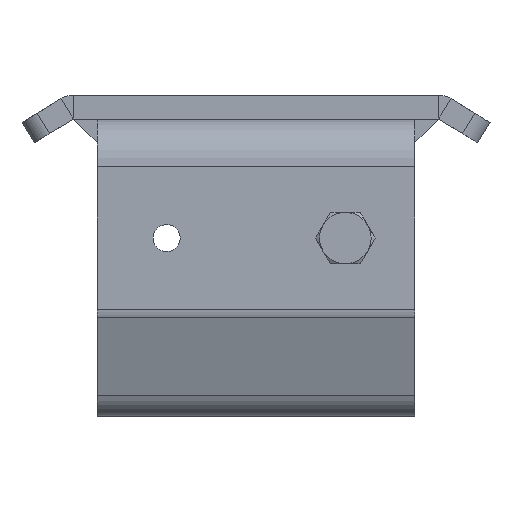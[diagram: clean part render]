
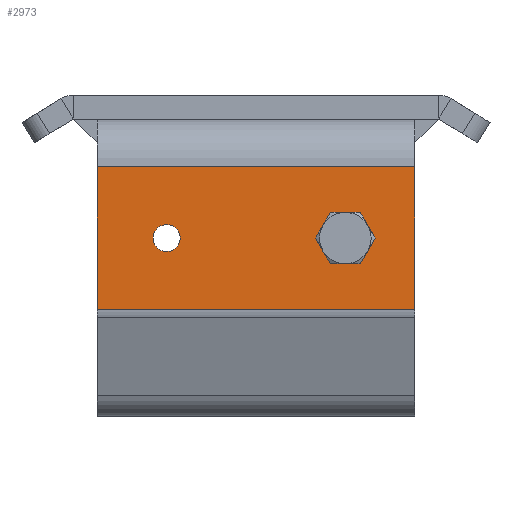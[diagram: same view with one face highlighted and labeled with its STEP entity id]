
A CAD part, left-side view. The second image highlights one B-rep face of the part: STEP entity #2973.
In plain terms, the highlighted planar face has unit normal (-1, 0, 0).
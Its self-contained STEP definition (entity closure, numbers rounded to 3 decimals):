
#85=FACE_BOUND('',#746,.T.);
#86=FACE_BOUND('',#747,.T.);
#289=CIRCLE('',#3259,3.4);
#291=CIRCLE('',#3262,3.324);
#508=FACE_OUTER_BOUND('',#745,.T.);
#745=EDGE_LOOP('',(#2511,#2512,#2513,#2514));
#746=EDGE_LOOP('',(#2515));
#747=EDGE_LOOP('',(#2516));
#953=LINE('',#5233,#1181);
#981=LINE('',#5324,#1209);
#984=LINE('',#5331,#1212);
#988=LINE('',#5344,#1216);
#1181=VECTOR('',#3898,80.);
#1209=VECTOR('',#3998,35.999);
#1212=VECTOR('',#4005,80.);
#1216=VECTOR('',#4025,35.999);
#1429=VERTEX_POINT('',#5218);
#1432=VERTEX_POINT('',#5226);
#1456=VERTEX_POINT('',#5315);
#1458=VERTEX_POINT('',#5320);
#1459=VERTEX_POINT('',#5323);
#1461=VERTEX_POINT('',#5330);
#1768=EDGE_CURVE('',#1432,#1429,#953,.T.);
#1807=EDGE_CURVE('',#1456,#1456,#289,.T.);
#1809=EDGE_CURVE('',#1458,#1458,#291,.T.);
#1810=EDGE_CURVE('',#1459,#1432,#981,.T.);
#1814=EDGE_CURVE('',#1461,#1459,#984,.T.);
#1821=EDGE_CURVE('',#1429,#1461,#988,.T.);
#2511=ORIENTED_EDGE('',*,*,#1768,.T.);
#2512=ORIENTED_EDGE('',*,*,#1821,.T.);
#2513=ORIENTED_EDGE('',*,*,#1814,.T.);
#2514=ORIENTED_EDGE('',*,*,#1810,.T.);
#2515=ORIENTED_EDGE('',*,*,#1809,.T.);
#2516=ORIENTED_EDGE('',*,*,#1807,.T.);
#2797=PLANE('',#3274);
#2973=ADVANCED_FACE('',(#508,#85,#86),#2797,.T.);
#3259=AXIS2_PLACEMENT_3D('',#5316,#3988,#3989);
#3262=AXIS2_PLACEMENT_3D('',#5321,#3994,#3995);
#3274=AXIS2_PLACEMENT_3D('',#5345,#4026,#4027);
#3898=DIRECTION('',(0.,1.,0.));
#3988=DIRECTION('center_axis',(1.,0.,0.));
#3989=DIRECTION('ref_axis',(0.,0.,
-1.));
#3994=DIRECTION('center_axis',(1.,0.,0.));
#3995=DIRECTION('ref_axis',(0.,0.,
1.));
#3998=DIRECTION('',(0.,0.,1.));
#4005=DIRECTION('',(0.,-1.,0.));
#4025=DIRECTION('',(0.,0.,-1.));
#4026=DIRECTION('center_axis',(-1.,0.,0.));
#4027=DIRECTION('ref_axis',(0.,0.,1.));
#5218=CARTESIAN_POINT('',(-40.,40.,-12.));
#5226=CARTESIAN_POINT('',(-40.,-40.,-12.));
#5233=CARTESIAN_POINT('',(-40.,20.,-12.));
#5315=CARTESIAN_POINT('',(-40.,22.5,-26.599));
#5316=CARTESIAN_POINT('Origin',(-40.,22.5,-29.999));
#5320=CARTESIAN_POINT('',(-40.,-22.5,-26.676));
#5321=CARTESIAN_POINT('Origin',(-40.,-22.5,-29.999));
#5323=CARTESIAN_POINT('',(-40.,-40.,-47.999));
#5324=CARTESIAN_POINT('',(-40.,-40.,-83.679));
#5330=CARTESIAN_POINT('',(-40.,40.,-47.999));
#5331=CARTESIAN_POINT('',(-40.,-20.,-47.999));
#5344=CARTESIAN_POINT('',(-40.,40.,143.68));
#5345=CARTESIAN_POINT('Origin',(-40.,0.,138.336));
